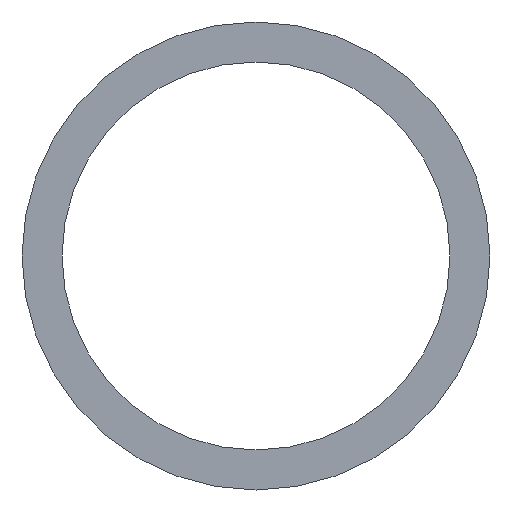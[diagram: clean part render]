
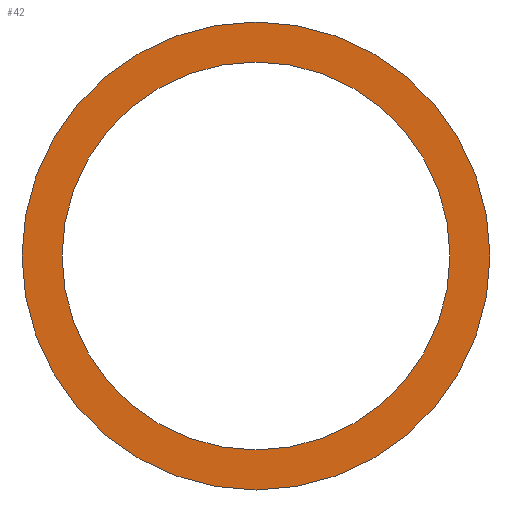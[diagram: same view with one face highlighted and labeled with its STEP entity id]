
A CAD part, front view. The second image highlights one B-rep face of the part: STEP entity #42.
In plain terms, the highlighted planar face has unit normal (0, -1, 0).
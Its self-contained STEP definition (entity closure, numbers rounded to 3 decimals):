
#2 = AXIS2_PLACEMENT_3D ( 'NONE', #202, #20, #169 ) ;
#20 = DIRECTION ( 'NONE',  ( 0., 1., 0. ) ) ;
#22 = AXIS2_PLACEMENT_3D ( 'NONE', #56, #105, #53 ) ;
#23 = DIRECTION ( 'NONE',  ( 0., 0., 1. ) ) ;
#25 = DIRECTION ( 'NONE',  ( 0., 1., 0. ) ) ;
#26 = EDGE_LOOP ( 'NONE', ( #196, #49 ) ) ;
#32 = PLANE ( 'NONE',  #22 ) ;
#33 = AXIS2_PLACEMENT_3D ( 'NONE', #117, #114, #70 ) ;
#42 = ADVANCED_FACE ( 'NONE', ( #198, #112 ), #32, .F. ) ;
#43 = CARTESIAN_POINT ( 'NONE',  ( -92., 82., 5764.7 ) ) ;
#49 = ORIENTED_EDGE ( 'NONE', *, *, #153, .F. ) ;
#53 = DIRECTION ( 'NONE',  ( 0., 0., 1. ) ) ;
#54 = CARTESIAN_POINT ( 'NONE',  ( -92., 82., 5789.3 ) ) ;
#56 = CARTESIAN_POINT ( 'NONE',  ( -82., 82., 6275.85 ) ) ;
#59 = DIRECTION ( 'NONE',  ( 0., 0., 1. ) ) ;
#70 = DIRECTION ( 'NONE',  ( 0., 0., 1. ) ) ;
#73 = EDGE_CURVE ( 'NONE', #126, #197, #76, .T. ) ;
#76 = CIRCLE ( 'NONE', #33, 11.15 ) ;
#78 = VERTEX_POINT ( 'NONE', #152 ) ;
#79 = ORIENTED_EDGE ( 'NONE', *, *, #73, .T. ) ;
#80 = CIRCLE ( 'NONE', #108, 11.15 ) ;
#89 = ORIENTED_EDGE ( 'NONE', *, *, #205, .T. ) ;
#90 = CARTESIAN_POINT ( 'NONE',  ( -92., 82., 5775.85 ) ) ;
#100 = EDGE_CURVE ( 'NONE', #113, #78, #147, .T. ) ;
#105 = DIRECTION ( 'NONE',  ( 0., 1., 0. ) ) ;
#108 = AXIS2_PLACEMENT_3D ( 'NONE', #180, #174, #59 ) ;
#109 = CARTESIAN_POINT ( 'NONE',  ( -92., 82., 5787. ) ) ;
#112 = FACE_OUTER_BOUND ( 'NONE', #26, .T. ) ;
#113 = VERTEX_POINT ( 'NONE', #54 ) ;
#114 = DIRECTION ( 'NONE',  ( 0., 1., 0. ) ) ;
#117 = CARTESIAN_POINT ( 'NONE',  ( -92., 82., 5775.85 ) ) ;
#126 = VERTEX_POINT ( 'NONE', #43 ) ;
#132 = EDGE_LOOP ( 'NONE', ( #89, #79 ) ) ;
#143 = CIRCLE ( 'NONE', #181, 13.45 ) ;
#147 = CIRCLE ( 'NONE', #2, 13.45 ) ;
#152 = CARTESIAN_POINT ( 'NONE',  ( -92., 82., 5762.4 ) ) ;
#153 = EDGE_CURVE ( 'NONE', #78, #113, #143, .T. ) ;
#169 = DIRECTION ( 'NONE',  ( 0., 0., 1. ) ) ;
#174 = DIRECTION ( 'NONE',  ( 0., 1., 0. ) ) ;
#180 = CARTESIAN_POINT ( 'NONE',  ( -92., 82., 5775.85 ) ) ;
#181 = AXIS2_PLACEMENT_3D ( 'NONE', #90, #25, #23 ) ;
#196 = ORIENTED_EDGE ( 'NONE', *, *, #100, .F. ) ;
#197 = VERTEX_POINT ( 'NONE', #109 ) ;
#198 = FACE_BOUND ( 'NONE', #132, .T. ) ;
#202 = CARTESIAN_POINT ( 'NONE',  ( -92., 82., 5775.85 ) ) ;
#205 = EDGE_CURVE ( 'NONE', #197, #126, #80, .T. ) ;
